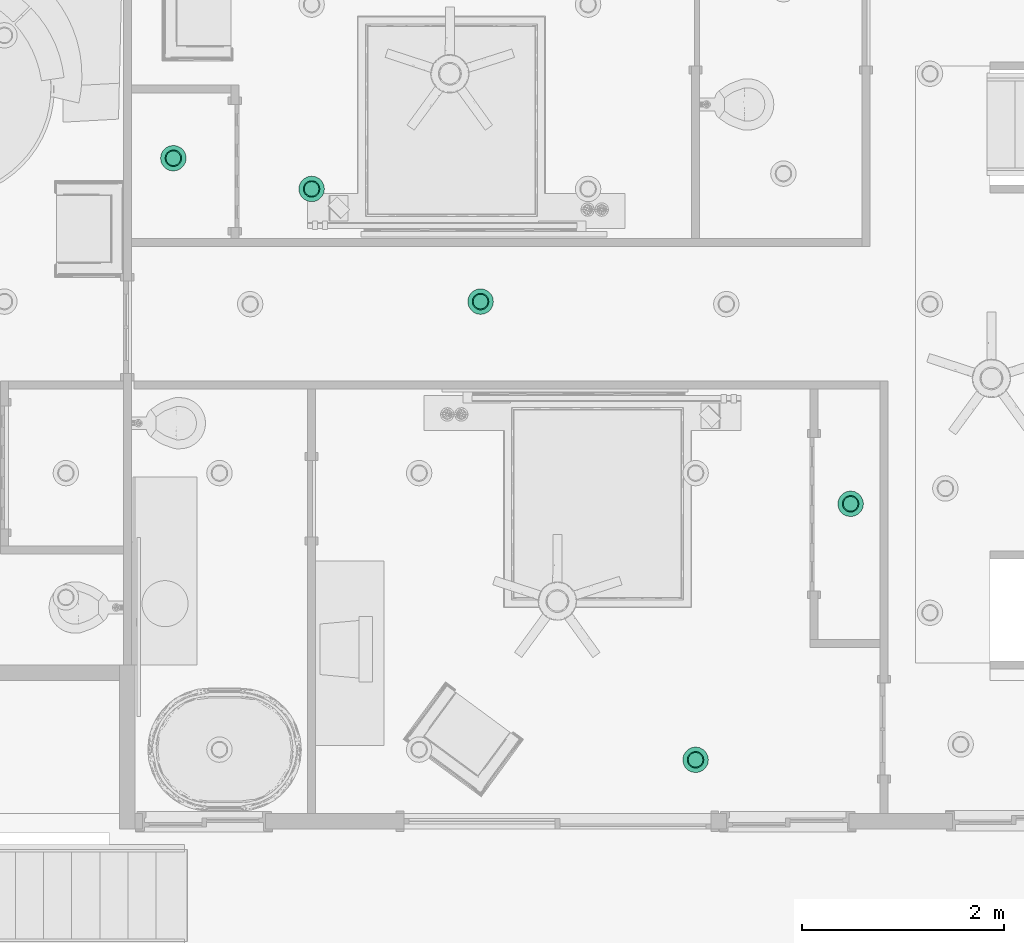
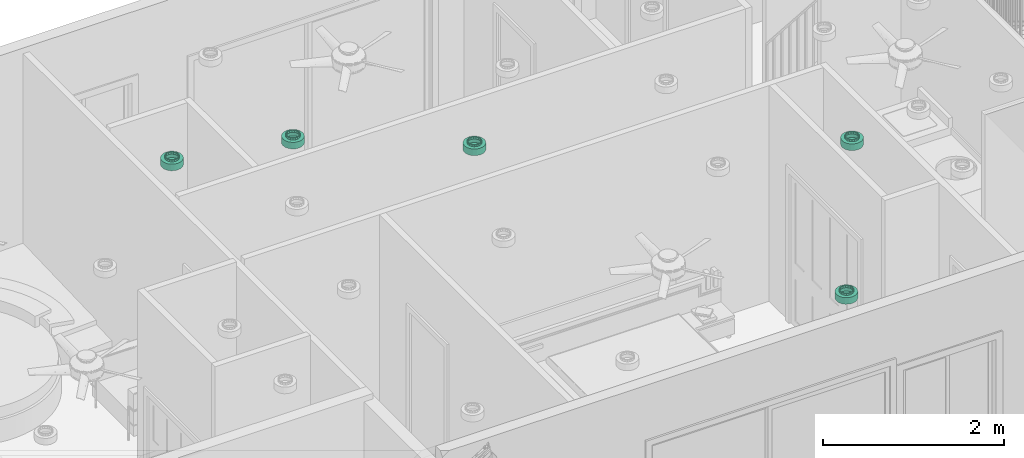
# One storey, part 14 of 28: 5 flow terminals.
"""IFC2X3 building model written with IfcOpenShell, lengths in feet."""

from ifc_helpers import new_model, entity, si_unit, converted_unit, derived_unit, direction, frame, origin, place, context, subcontext, project, spatial, faceted_brep, source, transform, mapped, material, material_list, type_object, type_shapes, element, save


model = new_model("IFC2X3")

# Units and contexts
model_context = context("Model", 3, precision=0.0001, world=origin(), true_north=direction((6.12303176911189e-17, 1.0)))
body_context = subcontext(model_context, "Body", "Model", "MODEL_VIEW")
ifc_project = project(units=[converted_unit("LENGTHUNIT", "FOOT", entity("IfcRatioMeasure", 0.3048), si_unit("LENGTHUNIT", "METRE"), dimensions=[1, 0, 0, 0, 0, 0, 0]), converted_unit("AREAUNIT", "SQUARE FOOT", entity("IfcRatioMeasure", 0.09290304), si_unit("AREAUNIT", "SQUARE_METRE"), dimensions=[2, 0, 0, 0, 0, 0, 0]), converted_unit("VOLUMEUNIT", "CUBIC FOOT", entity("IfcRatioMeasure", 0.028316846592), si_unit("VOLUMEUNIT", "CUBIC_METRE"), dimensions=[3, 0, 0, 0, 0, 0, 0]), converted_unit("PLANEANGLEUNIT", "DEGREE", entity("IfcRatioMeasure", 0.0174532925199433), si_unit("PLANEANGLEUNIT", "RADIAN"), dimensions=[0, 0, 0, 0, 0, 0, 0]), si_unit("MASSUNIT", "GRAM", prefix="KILO"), derived_unit("MASSDENSITYUNIT", [(si_unit("MASSUNIT", "GRAM", prefix="KILO"), 1), (si_unit("LENGTHUNIT", "METRE"), -3)]), si_unit("TIMEUNIT", "SECOND"), si_unit("FREQUENCYUNIT", "HERTZ"), si_unit("THERMODYNAMICTEMPERATUREUNIT", "DEGREE_CELSIUS"), derived_unit("THERMALTRANSMITTANCEUNIT", [(si_unit("MASSUNIT", "GRAM", prefix="KILO"), 1), (si_unit("THERMODYNAMICTEMPERATUREUNIT", "KELVIN"), -1), (si_unit("TIMEUNIT", "SECOND"), -3)]), derived_unit("VOLUMETRICFLOWRATEUNIT", [(si_unit("LENGTHUNIT", "METRE"), 3), (si_unit("TIMEUNIT", "SECOND"), -1)]), si_unit("ELECTRICCURRENTUNIT", "AMPERE"), si_unit("ELECTRICVOLTAGEUNIT", "VOLT"), si_unit("POWERUNIT", "WATT"), si_unit("FORCEUNIT", "NEWTON"), si_unit("ILLUMINANCEUNIT", "LUX"), si_unit("LUMINOUSFLUXUNIT", "LUMEN"), si_unit("LUMINOUSINTENSITYUNIT", "CANDELA"), derived_unit("USERDEFINED", [(si_unit("MASSUNIT", "GRAM", prefix="KILO"), -1), (si_unit("LENGTHUNIT", "METRE"), -2), (si_unit("TIMEUNIT", "SECOND"), 3), (si_unit("LUMINOUSFLUXUNIT", "LUMEN"), 1)]), derived_unit("LINEARVELOCITYUNIT", [(si_unit("LENGTHUNIT", "METRE"), 1), (si_unit("TIMEUNIT", "SECOND"), -1)]), si_unit("PRESSUREUNIT", "PASCAL"), derived_unit("USERDEFINED", [(si_unit("LENGTHUNIT", "METRE"), -2), (si_unit("MASSUNIT", "GRAM", prefix="KILO"), 1), (si_unit("TIMEUNIT", "SECOND"), -2)])], contexts=[model_context])

# Site, building, storey
site_placement = place(None, origin())
site = spatial("IfcSite", under=ifc_project, at=site_placement, Name="表面", CompositionType="ELEMENT")
building_placement = place(site_placement, origin())
building = spatial("IfcBuilding", under=site, at=building_placement, CompositionType="ELEMENT")
storey_placement = place(building_placement, frame((0.0, 0.0, 10.0)))
storey = spatial("IfcBuildingStorey", under=building, at=storey_placement, Name="Level 2", CompositionType="ELEMENT", Elevation=9.99999999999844)

# Flow terminals
ifc_material_1 = material(Name="Metal - Paint Finish - Dark Gray, Matte")
ifc_material_2 = material(Name="Glass - White, High Luminance")
ifc_material_list_1 = material_list([ifc_material_1, ifc_material_2])
ifc_material_list_2 = material_list([ifc_material_1, ifc_material_2])
light_fixture_type = type_object("IfcLightFixtureType", Name="100W - 277V", PredefinedType="NOTDEFINED", material=ifc_material_list_2)
shared_shape = source(origin(), body_context, "Body", "Brep", [
    faceted_brep([(0.557291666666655, 0.187326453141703, 0.374999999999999), (0.598651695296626, 0.245098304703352, 0.374999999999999), (0.558098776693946, 0.218001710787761, 0.374999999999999), (0.629345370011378, 0.247786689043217, 0.374999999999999), (0.517545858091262, 0.190905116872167, 0.374999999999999), (0.468904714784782, 0.155156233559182, 0.374999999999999), (0.625748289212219, 0.285651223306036, 0.374999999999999), (0.65284488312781, 0.326204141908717, 0.374999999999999), (0.676375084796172, 0.329244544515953, 0.374999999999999), (0.6623599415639, 0.374039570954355, 0.374999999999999), (0.671874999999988, 0.42187499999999, 0.374999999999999), (0.692708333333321, 0.421874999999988, 0.374999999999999), (0.676375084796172, 0.514505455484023, 0.374999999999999), (0.662359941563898, 0.469710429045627, 0.374999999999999), (0.652844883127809, 0.517545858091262, 0.374999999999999), (0.629345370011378, 0.595963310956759, 0.374999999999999), (0.625748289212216, 0.558098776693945, 0.374999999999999), (0.598651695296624, 0.598651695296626, 0.374999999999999), (0.557291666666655, 0.656423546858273, 0.374999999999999), (0.55809877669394, 0.625748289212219, 0.374999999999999), (0.517545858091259, 0.65284488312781, 0.374999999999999), (0.468904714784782, 0.688593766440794, 0.374999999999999), (0.469710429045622, 0.662359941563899, 0.374999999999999), (0.421874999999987, 0.671874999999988, 0.374999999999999), (0.374845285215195, 0.688593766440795, 0.374999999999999), (0.374039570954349, 0.662359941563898, 0.374999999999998), (0.326204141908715, 0.652844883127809, 0.374999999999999), (0.286458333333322, 0.656423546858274, 0.374999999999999), (0.285651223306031, 0.625748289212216, 0.374999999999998), (0.245098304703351, 0.598651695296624, 0.374999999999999), (0.214404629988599, 0.59596331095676, 0.374999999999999), (0.218001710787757, 0.558098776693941, 0.374999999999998), (0.190905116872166, 0.51754585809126, 0.374999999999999), (0.167374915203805, 0.514505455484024, 0.374999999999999), (0.181390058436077, 0.469710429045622, 0.374999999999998), (0.171874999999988, 0.421874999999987, 0.374999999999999), (0.151041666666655, 0.421874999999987, 0.374999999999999), (0.167374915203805, 0.329244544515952, 0.374999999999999), (0.181390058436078, 0.374039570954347, 0.374999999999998), (0.190905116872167, 0.326204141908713, 0.374999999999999), (0.214404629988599, 0.247786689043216, 0.374999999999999), (0.218001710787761, 0.28565122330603, 0.374999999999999), (0.245098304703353, 0.245098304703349, 0.374999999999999), (0.286458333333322, 0.187326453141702, 0.374999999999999), (0.285651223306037, 0.218001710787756, 0.374999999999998), (0.326204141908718, 0.190905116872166, 0.374999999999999), (0.374845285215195, 0.155156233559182, 0.374999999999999), (0.42187499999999, 0.171874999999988, 0.374999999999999), (0.374039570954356, 0.181390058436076, 0.374999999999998), (0.469710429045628, 0.181390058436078, 0.374999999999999), (0.557291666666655, 0.656423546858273, 0.291666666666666), (0.598651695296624, 0.598651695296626, 0.291666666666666), (0.55809877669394, 0.625748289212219, 0.291666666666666), (0.629345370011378, 0.595963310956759, 0.291666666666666), (0.517545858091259, 0.65284488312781, 0.291666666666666), (0.468904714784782, 0.688593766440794, 0.291666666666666), (0.625748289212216, 0.558098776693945, 0.291666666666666), (0.652844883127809, 0.517545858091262, 0.291666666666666), (0.676375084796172, 0.514505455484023, 0.291666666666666), (0.662359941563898, 0.469710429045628, 0.291666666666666), (0.671874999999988, 0.42187499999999, 0.291666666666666), (0.692708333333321, 0.421874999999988, 0.291666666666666), (0.676375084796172, 0.329244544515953, 0.291666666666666), (0.659760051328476, 0.36096904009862, 0.291666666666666), (0.65284488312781, 0.326204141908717, 0.291666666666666), (0.629345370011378, 0.247786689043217, 0.291666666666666), (0.625748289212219, 0.285651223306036, 0.291666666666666), (0.598651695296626, 0.245098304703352, 0.291666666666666), (0.557291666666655, 0.187326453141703, 0.291666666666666), (0.558098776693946, 0.218001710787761, 0.291666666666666), (0.517545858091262, 0.190905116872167, 0.291666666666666), (0.468904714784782, 0.155156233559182, 0.291666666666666), (0.469710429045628, 0.181390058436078, 0.291666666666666), (0.42187499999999, 0.171874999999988, 0.291666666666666), (0.374845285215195, 0.155156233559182, 0.291666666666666), (0.374039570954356, 0.181390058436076, 0.291666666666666), (0.326204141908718, 0.190905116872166, 0.291666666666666), (0.286458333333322, 0.187326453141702, 0.291666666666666), (0.285651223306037, 0.218001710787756, 0.291666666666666), (0.245098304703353, 0.245098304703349, 0.291666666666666), (0.214404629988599, 0.247786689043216, 0.291666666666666), (0.218001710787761, 0.28565122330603, 0.291666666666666), (0.190905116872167, 0.326204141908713, 0.291666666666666), (0.167374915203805, 0.329244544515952, 0.291666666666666), (0.181390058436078, 0.374039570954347, 0.291666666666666), (0.171874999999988, 0.421874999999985, 0.291666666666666), (0.151041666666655, 0.421874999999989, 0.291666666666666), (0.167374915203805, 0.514505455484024, 0.291666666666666), (0.183989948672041, 0.482780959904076, 0.291666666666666), (0.190905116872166, 0.51754585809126, 0.291666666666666), (0.214404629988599, 0.59596331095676, 0.291666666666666), (0.218001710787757, 0.558098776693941, 0.291666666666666), (0.245098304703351, 0.598651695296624, 0.291666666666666), (0.286458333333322, 0.656423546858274, 0.291666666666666), (0.285651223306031, 0.625748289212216, 0.291666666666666), (0.326204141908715, 0.652844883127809, 0.291666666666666), (0.374845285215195, 0.688593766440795, 0.291666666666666), (0.421874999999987, 0.671874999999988, 0.291666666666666), (0.374039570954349, 0.662359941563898, 0.291666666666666), (0.469710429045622, 0.662359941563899, 0.291666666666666)], [[[0, 1, 2]], [[1, 0, 3]], [[0, 2, 4]], [[4, 5, 0]], [[3, 6, 1]], [[3, 7, 6]], [[7, 3, 8]], [[8, 9, 7]], [[8, 10, 9]], [[10, 8, 11]], [[10, 11, 12]], [[12, 13, 10]], [[12, 14, 13]], [[15, 14, 12]], [[15, 16, 14]], [[15, 17, 16]], [[18, 17, 15]], [[18, 19, 17]], [[18, 20, 19]], [[21, 20, 18]], [[21, 22, 20]], [[21, 23, 22]], [[24, 23, 21]], [[24, 25, 23]], [[24, 26, 25]], [[27, 26, 24]], [[27, 28, 26]], [[27, 29, 28]], [[29, 27, 30]], [[30, 31, 29]], [[30, 32, 31]], [[32, 30, 33]], [[33, 34, 32]], [[33, 35, 34]], [[36, 35, 33]], [[37, 35, 36]], [[37, 38, 35]], [[37, 39, 38]], [[39, 37, 40]], [[40, 41, 39]], [[40, 42, 41]], [[42, 40, 43]], [[43, 44, 42]], [[43, 45, 44]], [[45, 43, 46]], [[47, 46, 5]], [[46, 47, 48]], [[46, 48, 45]], [[5, 4, 49]], [[5, 49, 47]], [[50, 51, 52]], [[51, 50, 53]], [[50, 52, 54]], [[54, 55, 50]], [[53, 56, 51]], [[53, 57, 56]], [[57, 53, 58]], [[58, 59, 57]], [[58, 60, 59]], [[60, 58, 61]], [[60, 61, 62]], [[62, 63, 60]], [[62, 64, 63]], [[65, 64, 62]], [[65, 66, 64]], [[65, 67, 66]], [[68, 67, 65]], [[68, 69, 67]], [[68, 70, 69]], [[71, 70, 68]], [[71, 72, 70]], [[71, 73, 72]], [[74, 73, 71]], [[74, 75, 73]], [[74, 76, 75]], [[77, 76, 74]], [[77, 78, 76]], [[77, 79, 78]], [[79, 77, 80]], [[80, 81, 79]], [[80, 82, 81]], [[82, 80, 83]], [[83, 84, 82]], [[83, 85, 84]], [[86, 85, 83]], [[87, 85, 86]], [[87, 88, 85]], [[87, 89, 88]], [[89, 87, 90]], [[90, 91, 89]], [[90, 92, 91]], [[92, 90, 93]], [[93, 94, 92]], [[93, 95, 94]], [[95, 93, 96]], [[97, 96, 55]], [[96, 97, 98]], [[96, 98, 95]], [[55, 54, 99]], [[55, 99, 97]], [[37, 36, 86, 83]], [[43, 40, 80, 77]], [[83, 80, 40, 37]], [[77, 74, 46, 43]], [[74, 71, 5, 46]], [[0, 5, 71, 68]], [[8, 3, 65, 62]], [[68, 65, 3, 0]], [[62, 61, 11, 8]], [[12, 11, 61, 58]], [[18, 15, 53, 50]], [[58, 53, 15, 12]], [[50, 55, 21, 18]], [[55, 96, 24, 21]], [[27, 24, 96, 93]], [[87, 33, 30, 90]], [[90, 30, 27, 93]], [[33, 87, 86, 36]], [[34, 35, 85, 88, 89, 32]], [[89, 91, 92, 29, 31, 32]], [[59, 60, 10, 13, 14, 57]], [[92, 94, 95, 26, 28, 29]], [[23, 25, 26, 95, 98, 97]], [[97, 99, 54, 20, 22, 23]], [[16, 17, 51, 56, 57, 14]], [[54, 52, 51, 17, 19, 20]], [[9, 10, 60, 63, 64, 7]], [[64, 66, 67, 1, 6, 7]], [[84, 85, 35, 38, 39, 82]], [[67, 69, 70, 4, 2, 1]], [[47, 49, 4, 70, 72, 73]], [[73, 75, 76, 45, 48, 47]], [[41, 42, 79, 81, 82, 39]], [[76, 78, 79, 42, 44, 45]]]),
    faceted_brep([(0.671874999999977, 0.421874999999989, 0.291666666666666), (0.838541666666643, 0.421874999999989, 0.291666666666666), (0.81814854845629, 0.550632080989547, 0.291666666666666), (0.818148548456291, 0.293117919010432, 0.291666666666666), (0.659760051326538, 0.360969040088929, 0.291666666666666), (0.662359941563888, 0.469710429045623, 0.291666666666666), (0.6528448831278, 0.326204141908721, 0.291666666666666), (0.758965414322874, 0.176964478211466, 0.291666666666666), (0.625748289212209, 0.28565122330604, 0.291666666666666), (0.598651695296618, 0.24509830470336, 0.291666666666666), (0.666785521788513, 0.084784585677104, 0.291666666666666), (0.558098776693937, 0.218001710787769, 0.291666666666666), (0.517545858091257, 0.190905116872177, 0.291666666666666), (0.550632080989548, 0.025601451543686, 0.291666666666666), (0.469710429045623, 0.181390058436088, 0.291666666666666), (0.421874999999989, 0.171874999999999, 0.291666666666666), (0.42187499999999, 0.00520833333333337, 0.291666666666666), (0.293117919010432, 0.0256014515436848, 0.291666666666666), (0.374039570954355, 0.181390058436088, 0.291666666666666), (0.326204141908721, 0.190905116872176, 0.291666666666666), (0.176964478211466, 0.0847845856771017, 0.291666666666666), (0.285651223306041, 0.218001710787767, 0.291666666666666), (0.24509830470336, 0.245098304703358, 0.291666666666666), (0.0847845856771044, 0.176964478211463, 0.291666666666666), (0.218001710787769, 0.285651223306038, 0.291666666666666), (0.190905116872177, 0.326204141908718, 0.291666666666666), (0.0256014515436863, 0.293117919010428, 0.291666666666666), (0.181390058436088, 0.374039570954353, 0.291666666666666), (0.171874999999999, 0.421874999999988, 0.291666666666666), (0.00520833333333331, 0.421874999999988, 0.291666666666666), (0.0256014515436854, 0.550632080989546, 0.291666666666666), (0.183989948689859, 0.482780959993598, 0.291666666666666), (0.190905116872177, 0.517545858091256, 0.291666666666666), (0.0847845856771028, 0.666785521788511, 0.291666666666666), (0.218001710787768, 0.558098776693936, 0.291666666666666), (0.245098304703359, 0.598651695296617, 0.291666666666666), (0.176964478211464, 0.758965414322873, 0.291666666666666), (0.285651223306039, 0.625748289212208, 0.291666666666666), (0.32620414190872, 0.652844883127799, 0.291666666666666), (0.29311791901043, 0.81814854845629, 0.291666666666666), (0.374039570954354, 0.662359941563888, 0.291666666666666), (0.421874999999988, 0.671874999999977, 0.291666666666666), (0.421874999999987, 0.838541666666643, 0.291666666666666), (0.550632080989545, 0.818148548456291, 0.291666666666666), (0.469710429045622, 0.662359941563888, 0.291666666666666), (0.517545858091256, 0.6528448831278, 0.291666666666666), (0.666785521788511, 0.758965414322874, 0.291666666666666), (0.558098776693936, 0.625748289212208, 0.291666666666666), (0.598651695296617, 0.598651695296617, 0.291666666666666), (0.758965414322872, 0.666785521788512, 0.291666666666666), (0.625748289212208, 0.558098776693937, 0.291666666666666), (0.652844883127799, 0.517545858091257, 0.291666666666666), (0.0256014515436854, 0.550632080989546, 0.0), (0.00520833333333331, 0.421874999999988, 0.0), (0.0847845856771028, 0.666785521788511, 0.0), (0.176964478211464, 0.758965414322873, 0.0), (0.29311791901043, 0.818148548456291, 0.0), (0.421874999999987, 0.838541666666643, 0.0), (0.550632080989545, 0.818148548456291, 0.0), (0.666785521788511, 0.758965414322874, 0.0), (0.758965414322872, 0.666785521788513, 0.0), (0.81814854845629, 0.550632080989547, 0.0), (0.838541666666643, 0.42187499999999, 0.0), (0.818148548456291, 0.293117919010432, 0.0), (0.666785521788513, 0.0847845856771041, 0.0), (0.550632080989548, 0.025601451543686, 0.0), (0.42187499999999, 0.00520833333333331, 0.0), (0.758965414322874, 0.176964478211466, 0.0), (0.293117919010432, 0.0256014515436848, 0.0), (0.176964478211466, 0.0847845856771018, 0.0), (0.0847845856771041, 0.176964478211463, 0.0), (0.025601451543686, 0.293117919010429, 0.0), (0.421874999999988, 0.421874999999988, 0.0), (0.808241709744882, 0.547413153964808, 0.0104166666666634), (0.421874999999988, 0.421874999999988, 0.0104166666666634), (0.828124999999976, 0.421874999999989, 0.0104166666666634), (0.7505381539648, 0.660662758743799, 0.0104166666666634), (0.660662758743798, 0.750538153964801, 0.0104166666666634), (0.547413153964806, 0.808241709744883, 0.0104166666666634), (0.421874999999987, 0.828124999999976, 0.0104166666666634), (0.296336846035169, 0.808241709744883, 0.0104166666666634), (0.183087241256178, 0.750538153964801, 0.0104166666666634), (0.0932118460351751, 0.660662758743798, 0.0104166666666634), (0.0355082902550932, 0.547413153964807, 0.0104166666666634), (0.0156249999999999, 0.421874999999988, 0.0104166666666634), (0.0355082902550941, 0.296336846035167, 0.0104166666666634), (0.0932118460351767, 0.183087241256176, 0.0104166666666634), (0.18308724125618, 0.093211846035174, 0.0104166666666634), (0.296336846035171, 0.0355082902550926, 0.0104166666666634), (0.42187499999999, 0.0156249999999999, 0.0104166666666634), (0.547413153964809, 0.0355082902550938, 0.0104166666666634), (0.6606627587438, 0.0932118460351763, 0.0104166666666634), (0.750538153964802, 0.183087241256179, 0.0104166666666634), (0.808241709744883, 0.296336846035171, 0.0104166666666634), (0.0355082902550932, 0.547413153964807, 0.281249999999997), (0.0156249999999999, 0.421874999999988, 0.281249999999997), (0.0932118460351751, 0.660662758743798, 0.281249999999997), (0.183087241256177, 0.750538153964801, 0.281249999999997), (0.296336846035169, 0.808241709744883, 0.281249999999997), (0.421874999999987, 0.828124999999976, 0.281249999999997), (0.660662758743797, 0.750538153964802, 0.281249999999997), (0.547413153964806, 0.808241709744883, 0.281249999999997), (0.808241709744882, 0.547413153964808, 0.281249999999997), (0.7505381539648, 0.660662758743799, 0.281249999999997), (0.828124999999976, 0.42187499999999, 0.281249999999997), (0.808241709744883, 0.296336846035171, 0.281249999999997), (0.547413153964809, 0.0355082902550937, 0.281249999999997), (0.6606627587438, 0.0932118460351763, 0.281249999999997), (0.42187499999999, 0.0156249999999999, 0.281249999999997), (0.750538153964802, 0.183087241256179, 0.281249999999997), (0.183087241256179, 0.0932118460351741, 0.281249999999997), (0.296336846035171, 0.0355082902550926, 0.281249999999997), (0.0355082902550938, 0.296336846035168, 0.281249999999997), (0.0932118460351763, 0.183087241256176, 0.281249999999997), (0.66145833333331, 0.421874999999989, 0.281249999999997), (0.650878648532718, 0.475062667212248, 0.281249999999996), (0.643221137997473, 0.513559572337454, 0.281249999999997), (0.650878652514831, 0.368687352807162, 0.281249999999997), (0.643221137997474, 0.330190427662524, 0.281249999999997), (0.617253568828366, 0.291327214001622, 0.281249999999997), (0.591285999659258, 0.25246400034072, 0.281249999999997), (0.552422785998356, 0.226496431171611, 0.281249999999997), (0.513559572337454, 0.200528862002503, 0.281249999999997), (0.467717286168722, 0.191410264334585, 0.281249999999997), (0.421874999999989, 0.182291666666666, 0.281249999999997), (0.376032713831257, 0.191410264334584, 0.281249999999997), (0.330190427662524, 0.200528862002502, 0.281249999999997), (0.291327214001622, 0.22649643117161, 0.281249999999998), (0.25246400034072, 0.252464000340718, 0.281249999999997), (0.226496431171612, 0.29132721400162, 0.281249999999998), (0.200528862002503, 0.330190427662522, 0.281249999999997), (0.191410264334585, 0.376032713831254, 0.281249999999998), (0.182291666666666, 0.421874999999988, 0.281249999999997), (0.192871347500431, 0.47506264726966, 0.281249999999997), (0.200528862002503, 0.513559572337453, 0.281249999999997), (0.226496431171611, 0.552422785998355, 0.281249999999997), (0.252464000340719, 0.591285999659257, 0.281249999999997), (0.291327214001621, 0.617253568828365, 0.281249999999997), (0.330190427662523, 0.643221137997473, 0.281249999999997), (0.376032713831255, 0.652339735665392, 0.281249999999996), (0.421874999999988, 0.66145833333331, 0.281249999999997), (0.46771728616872, 0.652339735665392, 0.281249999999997), (0.513559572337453, 0.643221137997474, 0.281249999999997), (0.591285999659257, 0.591285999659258, 0.281249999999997), (0.552422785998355, 0.617253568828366, 0.281249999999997), (0.617253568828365, 0.552422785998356, 0.281249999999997), (0.191410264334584, 0.467717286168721, 0.375), (0.182291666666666, 0.421874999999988, 0.375), (0.200528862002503, 0.513559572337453, 0.375), (0.252464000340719, 0.591285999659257, 0.375), (0.226496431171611, 0.552422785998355, 0.375), (0.330190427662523, 0.643221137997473, 0.375), (0.291327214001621, 0.617253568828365, 0.375), (0.421874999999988, 0.66145833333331, 0.375), (0.376032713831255, 0.652339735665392, 0.375), (0.552422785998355, 0.617253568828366, 0.375), (0.513559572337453, 0.643221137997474, 0.375), (0.591285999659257, 0.591285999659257, 0.375), (0.643221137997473, 0.513559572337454, 0.375), (0.617253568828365, 0.552422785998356, 0.375), (0.46771728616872, 0.652339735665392, 0.375), (0.652339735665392, 0.467717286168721, 0.375), (0.66145833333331, 0.421874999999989, 0.375), (0.652339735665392, 0.376032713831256, 0.375), (0.643221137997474, 0.330190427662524, 0.375), (0.591285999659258, 0.25246400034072, 0.375), (0.617253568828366, 0.291327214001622, 0.375), (0.513559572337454, 0.200528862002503, 0.375), (0.552422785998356, 0.226496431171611, 0.375), (0.421874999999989, 0.182291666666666, 0.375), (0.467717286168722, 0.191410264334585, 0.375), (0.200528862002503, 0.330190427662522, 0.375), (0.192871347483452, 0.368687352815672, 0.375), (0.25246400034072, 0.252464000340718, 0.375), (0.291327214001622, 0.22649643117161, 0.375), (0.330190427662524, 0.200528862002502, 0.375), (0.226496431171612, 0.29132721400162, 0.375), (0.376032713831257, 0.191410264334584, 0.375), (0.671874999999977, 0.421874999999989, 0.375), (0.659760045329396, 0.482780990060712, 0.375), (0.652844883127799, 0.517545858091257, 0.375), (0.662359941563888, 0.374039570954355, 0.375), (0.6528448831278, 0.326204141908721, 0.375), (0.625748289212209, 0.28565122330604, 0.375), (0.598651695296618, 0.24509830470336, 0.375), (0.558098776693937, 0.218001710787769, 0.375), (0.517545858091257, 0.190905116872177, 0.375), (0.469710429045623, 0.181390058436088, 0.375), (0.421874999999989, 0.171874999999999, 0.375), (0.374039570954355, 0.181390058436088, 0.375), (0.326204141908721, 0.190905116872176, 0.375), (0.285651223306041, 0.218001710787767, 0.375), (0.24509830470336, 0.245098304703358, 0.375), (0.218001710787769, 0.285651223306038, 0.375), (0.190905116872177, 0.326204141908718, 0.375), (0.183989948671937, 0.360969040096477, 0.375), (0.171874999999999, 0.421874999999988, 0.375), (0.181390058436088, 0.469710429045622, 0.375), (0.190905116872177, 0.517545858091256, 0.375), (0.218001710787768, 0.558098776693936, 0.375), (0.245098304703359, 0.598651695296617, 0.375), (0.285651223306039, 0.625748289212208, 0.375), (0.32620414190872, 0.652844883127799, 0.375), (0.374039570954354, 0.662359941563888, 0.375), (0.421874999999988, 0.671874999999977, 0.375), (0.469710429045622, 0.662359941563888, 0.375), (0.517545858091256, 0.6528448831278, 0.375), (0.558098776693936, 0.625748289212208, 0.375), (0.598651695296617, 0.598651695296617, 0.375), (0.625748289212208, 0.558098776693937, 0.375)], [[[0, 1, 2]], [[0, 3, 1]], [[3, 0, 4]], [[2, 5, 0]], [[3, 4, 6]], [[7, 3, 6]], [[7, 6, 8]], [[7, 8, 9]], [[10, 7, 9]], [[10, 9, 11]], [[10, 11, 12]], [[10, 12, 13]], [[13, 12, 14]], [[13, 14, 15]], [[16, 13, 15]], [[16, 15, 17]], [[17, 15, 18]], [[17, 18, 19]], [[17, 19, 20]], [[20, 19, 21]], [[20, 21, 22]], [[23, 20, 22]], [[23, 22, 24]], [[23, 24, 25]], [[25, 26, 23]], [[26, 25, 27]], [[26, 27, 28]], [[29, 26, 28]], [[30, 29, 28]], [[30, 28, 31]], [[30, 31, 32]], [[30, 32, 33]], [[33, 32, 34]], [[33, 34, 35]], [[36, 33, 35]], [[36, 35, 37]], [[36, 37, 38]], [[39, 36, 38]], [[39, 38, 40]], [[39, 40, 41]], [[42, 39, 41]], [[42, 41, 43]], [[43, 41, 44]], [[43, 44, 45]], [[46, 43, 45]], [[46, 45, 47]], [[46, 47, 48]], [[46, 48, 49]], [[49, 48, 50]], [[49, 50, 51]], [[49, 51, 2]], [[2, 51, 5]], [[52, 53, 29, 30]], [[30, 33, 54, 52]], [[36, 55, 54, 33]], [[55, 36, 39, 56]], [[56, 39, 42, 57]], [[58, 43, 46, 59]], [[60, 49, 2, 61]], [[46, 49, 60, 59]], [[61, 2, 1, 62]], [[43, 58, 57, 42]], [[1, 3, 63, 62]], [[64, 10, 13, 65]], [[16, 66, 65, 13]], [[63, 3, 7, 67]], [[10, 64, 67, 7]], [[68, 17, 20, 69]], [[70, 23, 26, 71]], [[20, 23, 70, 69]], [[71, 26, 29, 53]], [[17, 68, 66, 16]], [[62, 72, 61]], [[62, 63, 72]], [[72, 63, 67]], [[72, 67, 64]], [[72, 64, 65]], [[65, 66, 72]], [[68, 72, 66]], [[72, 68, 69]], [[72, 69, 70]], [[71, 72, 70]], [[72, 71, 53]], [[72, 53, 52]], [[72, 52, 54]], [[54, 55, 72]], [[72, 55, 56]], [[56, 57, 72]], [[72, 57, 58]], [[59, 72, 58]], [[72, 59, 60]], [[61, 72, 60]], [[73, 74, 75]], [[76, 74, 73]], [[76, 77, 74]], [[78, 74, 77]], [[78, 79, 74]], [[74, 79, 80]], [[80, 81, 74]], [[74, 81, 82]], [[82, 83, 74]], [[83, 84, 74]], [[84, 85, 74]], [[86, 74, 85]], [[86, 87, 74]], [[87, 88, 74]], [[89, 74, 88]], [[74, 89, 90]], [[90, 91, 74]], [[91, 92, 74]], [[92, 93, 74]], [[74, 93, 75]], [[94, 95, 84, 83]], [[82, 96, 94, 83]], [[96, 82, 81, 97]], [[81, 80, 98, 97]], [[98, 80, 79, 99]], [[100, 101, 78, 77]], [[102, 103, 76, 73]], [[77, 76, 103, 100]], [[104, 102, 73, 75]], [[79, 78, 101, 99]], [[105, 104, 75, 93]], [[106, 107, 91, 90]], [[108, 106, 90, 89]], [[93, 92, 109, 105]], [[109, 92, 91, 107]], [[110, 111, 88, 87]], [[112, 113, 86, 85]], [[87, 86, 113, 110]], [[95, 112, 85, 84]], [[89, 88, 111, 108]], [[102, 104, 114]], [[102, 114, 115]], [[102, 115, 116]], [[102, 116, 103]], [[104, 105, 114]], [[105, 117, 114]], [[105, 118, 117]], [[118, 105, 109]], [[109, 119, 118]], [[109, 120, 119]], [[120, 109, 107]], [[107, 121, 120]], [[107, 122, 121]], [[106, 122, 107]], [[106, 123, 122]], [[106, 124, 123]], [[124, 106, 108]], [[111, 124, 108]], [[111, 125, 124]], [[111, 126, 125]], [[110, 126, 111]], [[110, 127, 126]], [[110, 128, 127]], [[128, 110, 113]], [[113, 129, 128]], [[113, 130, 129]], [[113, 112, 130]], [[112, 131, 130]], [[112, 132, 131]], [[132, 112, 95]], [[132, 95, 94]], [[94, 133, 132]], [[94, 134, 133]], [[96, 134, 94]], [[96, 135, 134]], [[96, 136, 135]], [[136, 96, 97]], [[97, 137, 136]], [[97, 138, 137]], [[138, 97, 98]], [[98, 139, 138]], [[98, 140, 139]], [[140, 98, 99]], [[101, 140, 99]], [[101, 141, 140]], [[101, 142, 141]], [[142, 101, 100]], [[103, 143, 100]], [[100, 143, 144]], [[100, 144, 142]], [[103, 116, 145]], [[103, 145, 143]], [[146, 147, 132, 133, 134, 148]], [[136, 149, 150, 148, 134, 135]], [[136, 137, 138, 151, 152, 149]], [[151, 138, 139, 140, 153, 154]], [[155, 156, 142, 144, 143, 157]], [[116, 158, 159, 157, 143, 145]], [[153, 140, 141, 142, 156, 160]], [[161, 158, 116, 115, 114, 162]], [[163, 162, 114, 117, 118, 164]], [[120, 165, 166, 164, 118, 119]], [[120, 121, 122, 167, 168, 165]], [[123, 124, 169, 170, 167, 122]], [[171, 130, 131, 132, 147, 172]], [[128, 173, 174, 175, 126, 127]], [[128, 129, 130, 171, 176, 173]], [[175, 177, 169, 124, 125, 126]], [[162, 178, 179]], [[162, 179, 180]], [[180, 161, 162]], [[162, 181, 178]], [[162, 182, 181]], [[182, 162, 163]], [[182, 163, 164]], [[164, 183, 182]], [[164, 184, 183]], [[184, 164, 166]], [[184, 166, 165]], [[165, 185, 184]], [[165, 186, 185]], [[186, 165, 168]], [[186, 168, 167]], [[167, 187, 186]], [[167, 188, 187]], [[188, 167, 170]], [[188, 170, 169]], [[188, 169, 177]], [[188, 177, 175]], [[175, 189, 188]], [[175, 190, 189]], [[190, 175, 174]], [[190, 174, 173]], [[173, 191, 190]], [[173, 192, 191]], [[192, 173, 176]], [[192, 176, 171]], [[171, 193, 192]], [[171, 194, 193]], [[194, 171, 172]], [[194, 172, 147]], [[147, 195, 194]], [[147, 196, 195]], [[147, 197, 196]], [[147, 198, 197]], [[198, 147, 146]], [[198, 146, 148]], [[148, 199, 198]], [[148, 200, 199]], [[200, 148, 150]], [[200, 150, 149]], [[149, 201, 200]], [[149, 202, 201]], [[202, 149, 152]], [[202, 152, 151]], [[151, 203, 202]], [[151, 204, 203]], [[204, 151, 154]], [[204, 154, 153]], [[204, 153, 160]], [[204, 160, 156]], [[156, 205, 204]], [[156, 206, 205]], [[206, 156, 155]], [[206, 155, 157]], [[157, 207, 206]], [[157, 208, 207]], [[208, 157, 159]], [[208, 159, 158]], [[158, 180, 209]], [[180, 158, 161]], [[158, 209, 208]], [[198, 32, 31, 28, 196, 197]], [[199, 200, 35, 34, 32, 198]], [[200, 201, 202, 38, 37, 35]], [[40, 38, 202, 203, 204, 41]], [[47, 45, 206, 207, 208, 48]], [[178, 0, 5, 51, 180, 179]], [[208, 209, 180, 51, 50, 48]], [[45, 44, 41, 204, 205, 206]], [[182, 6, 4, 0, 178, 181]], [[183, 184, 9, 8, 6, 182]], [[184, 185, 186, 12, 11, 9]], [[187, 188, 15, 14, 12, 186]], [[195, 196, 28, 27, 25, 194]], [[191, 192, 22, 21, 19, 190]], [[192, 193, 194, 25, 24, 22]], [[19, 18, 15, 188, 189, 190]]]),
])
type_shapes(light_fixture_type, [shared_shape])
flow_terminal_1_placement = place(storey_placement, frame((-8.79012141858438, 3.34385202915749, 9.125)))
element("IfcFlowTerminal", 1, at=flow_terminal_1_placement, inside=storey, type_object=light_fixture_type, material=ifc_material_list_1, Name="Ceiling Light - Flat Round:100W - 277V", ObjectType="100W - 277V", context=body_context, shape_type="MappedRepresentation", body=[
    mapped(shared_shape, transform((0.0, 0.0, 0.0), scale=1.0)),
])
ifc_material_list_3 = material_list([ifc_material_1, ifc_material_2])
flow_terminal_2_placement = place(storey_placement, frame((3.25675358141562, -3.23948130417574, 9.125)))
element("IfcFlowTerminal", 2, at=flow_terminal_2_placement, inside=storey, type_object=light_fixture_type, material=ifc_material_list_3, Name="Ceiling Light - Flat Round:100W - 277V", ObjectType="100W - 277V", context=body_context, shape_type="MappedRepresentation", body=[
    mapped(shared_shape, transform((0.0, 0.0, 0.0), scale=1.0)),
])
ifc_material_list_4 = material_list([ifc_material_1, ifc_material_2])
flow_terminal_3_placement = place(storey_placement, frame((-18.7901214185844, 8.01051869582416, 9.125)))
element("IfcFlowTerminal", 3, at=flow_terminal_3_placement, inside=storey, type_object=light_fixture_type, material=ifc_material_list_4, Name="Ceiling Light - Flat Round:100W - 277V", ObjectType="100W - 277V", context=body_context, shape_type="MappedRepresentation", body=[
    mapped(shared_shape, transform((0.0, 0.0, 0.0), scale=1.0)),
])
ifc_material_list_5 = material_list([ifc_material_1, ifc_material_2])
flow_terminal_4_placement = place(storey_placement, frame((-14.2901214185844, 7.01051869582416, 9.125)))
element("IfcFlowTerminal", 4, at=flow_terminal_4_placement, inside=storey, type_object=light_fixture_type, material=ifc_material_list_5, Name="Ceiling Light - Flat Round:100W - 277V", ObjectType="100W - 277V", context=body_context, shape_type="MappedRepresentation", body=[
    mapped(shared_shape, transform((0.0, 0.0, 0.0), scale=1.0)),
])
ifc_material_list_6 = material_list([ifc_material_1, ifc_material_2])
flow_terminal_5_placement = place(storey_placement, frame((-1.79012141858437, -11.5728146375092, 9.125)))
element("IfcFlowTerminal", 5, at=flow_terminal_5_placement, inside=storey, type_object=light_fixture_type, material=ifc_material_list_6, Name="Ceiling Light - Flat Round:100W - 277V", ObjectType="100W - 277V", context=body_context, shape_type="MappedRepresentation", body=[
    mapped(shared_shape, transform((0.0, 0.0, 0.0), scale=1.0)),
])

save(model, "model.ifc")
